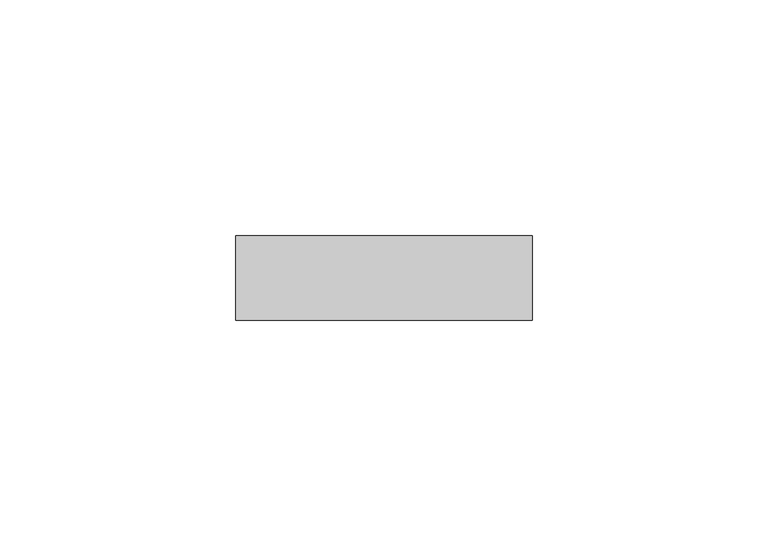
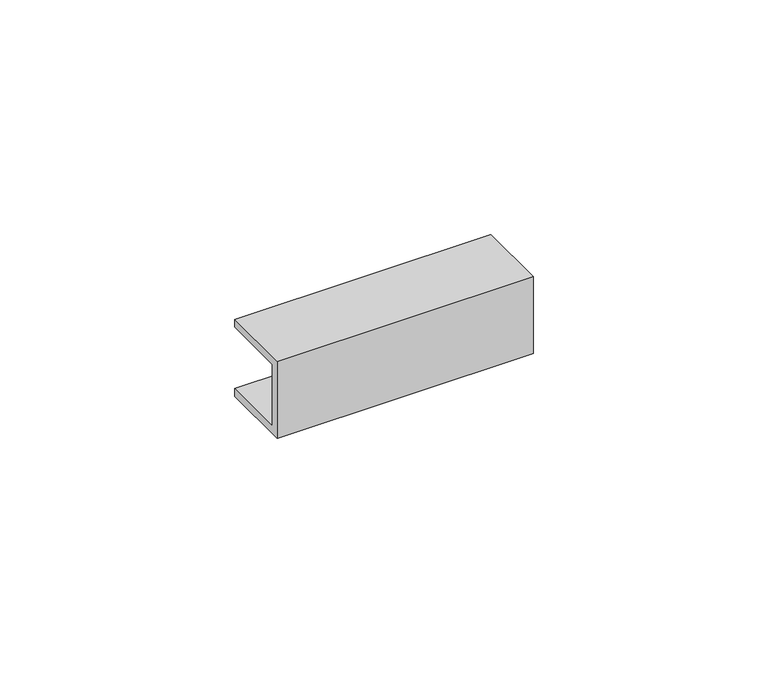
"""IFC4 building model written with IfcOpenShell, lengths in millimetres: proxy geometry, Соединитель_КМС : Соединитель КМС 16х16."""

from ifc_helpers import new_model, si_unit, frame, origin, place, context, project, spatial, polyline, outline, extrude, source, transform, mapped, element, save


def generic_models_b8c16742(model_context):
    return source(origin(), model_context, "Body", "SweptSolid", [
        extrude(outline(polyline([(-18.0, 42.0), (0.0, 42.0), (0.0, 40.0), (-16.0, 40.0), (-16.0, 24.0), (0.0, 24.0), (0.0, 22.0), (-18.0, 22.0), (-18.0, 42.0)])), frame((0.0, 0.0, 0.0), z_axis=(1.0, 0.0, 0.0), x_axis=(0.0, 1.0, 0.0)), (0.0, 0.0, 1.0), 63.0),
    ])


if __name__ == "__main__":
    model = new_model("IFC4")
    model_context = context("Model", 3, world=origin())
    ifc_project = project(units=[si_unit("LENGTHUNIT", "METRE", prefix="MILLI")], contexts=[model_context])
    site = spatial("IfcSite", under=ifc_project)
    building = spatial("IfcBuilding", under=site)
    placement = place(None, origin())
    generic_models_shape = generic_models_b8c16742(model_context)
    element("IfcBuildingElementProxy", 1, Name="Соединитель_КМС : Соединитель КМС 16х16", ObjectType="Соединитель_КМС : Соединитель КМС 16х16", at=placement, inside=building, context=model_context, shape_type="MappedRepresentation", body=[
        mapped(generic_models_shape, transform((0.0, 0.0, 0.0), x_axis=(1.0, 0.0, 0.0), y_axis=(0.0, 1.0, 0.0), z_axis=(0.0, 0.0, 1.0))),
    ])
    save(model, "model.ifc")
